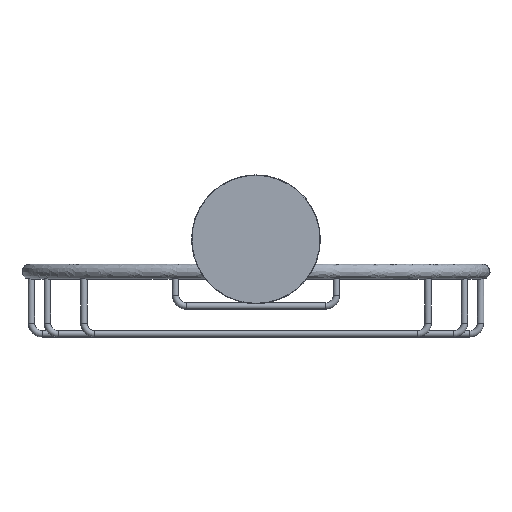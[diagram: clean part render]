
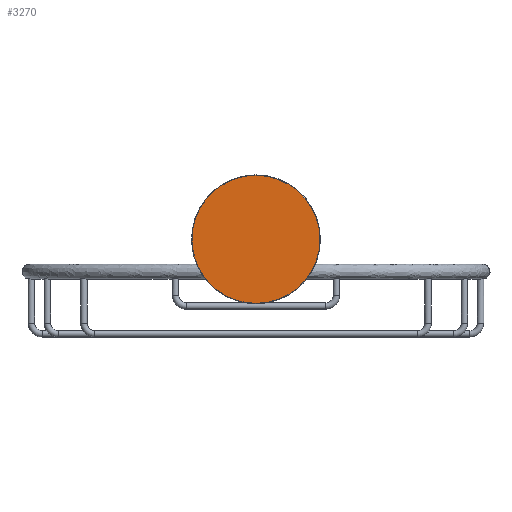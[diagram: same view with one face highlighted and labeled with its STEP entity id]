
A CAD part, front view. The second image highlights one B-rep face of the part: STEP entity #3270.
In plain terms, the highlighted planar face has unit normal (0, -1, 0).
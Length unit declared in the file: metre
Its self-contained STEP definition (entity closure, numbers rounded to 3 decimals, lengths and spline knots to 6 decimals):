
#20=EDGE_CURVE('',#21,#23,#25,.F.);
#21=VERTEX_POINT('',#22);
#22=CARTESIAN_POINT('',(0.0,-0.014,-0.0148));
#23=VERTEX_POINT('',#24);
#24=CARTESIAN_POINT('',(0.0,-0.014,0.0448));
#25=CIRCLE('',#26,0.0298);
#26=AXIS2_PLACEMENT_3D('',#27,#28,#29);
#27=CARTESIAN_POINT('',(0.0,-0.014,0.015));
#28=DIRECTION('',(0.0,1.0,0.0));
#29=DIRECTION('',(0.0,0.0,1.0));
#3270=ADVANCED_FACE('',(#3276),#3271,.F.);
#3271=PLANE('',#3272);
#3272=AXIS2_PLACEMENT_3D('',#3273,#3274,#3275);
#3273=CARTESIAN_POINT('',(0.0,-0.014,0.015));
#3274=DIRECTION('',(0.0,1.0,0.0));
#3275=DIRECTION('',(0.0,0.0,1.0));
#3276=FACE_OUTER_BOUND('',#3277,.T.);
#3277=EDGE_LOOP('',(#3278,#3286));
#3278=ORIENTED_EDGE('',*,*,#3280,.T.);
#3279=CARTESIAN_POINT('',(0.0,-0.014,-0.0148));
#3280=EDGE_CURVE('',#23,#21,#3281,.F.);
#3281=(B_SPLINE_CURVE(3,(#3279,#3282,#3283,#3284),.UNSPECIFIED.,.F.,.U.)B_SPLINE_CURVE_WITH_KNOTS(
  (4,4),(0.0,1.0),.UNSPECIFIED.)BOUNDED_CURVE()CURVE()GEOMETRIC_REPRESENTATION_ITEM(
  )RATIONAL_B_SPLINE_CURVE((1.0,0.333,0.333,1.0)
  )REPRESENTATION_ITEM(''));
#3282=CARTESIAN_POINT('',(-0.0596,-0.014,-0.0148));
#3283=CARTESIAN_POINT('',(-0.0596,-0.014,0.0448));
#3284=CARTESIAN_POINT('',(0.0,-0.014,0.0448));
#3286=ORIENTED_EDGE('',*,*,#20,.T.);
